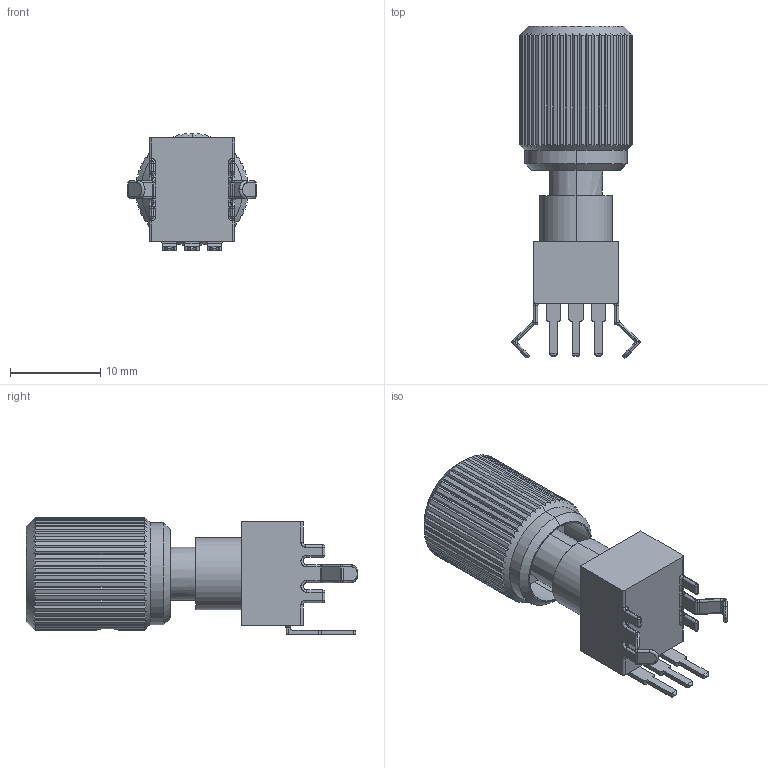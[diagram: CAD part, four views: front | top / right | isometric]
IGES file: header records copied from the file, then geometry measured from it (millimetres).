
Start section: SolidWorks IGES file using analytic representation for surfaces
Global section: file name: C:\Users\Agamemnon\Dropbox\BR-Engineering\PROJECTS\COMMANDER\MODELS\RELEASES\PUBLIC\CMDR-ASM-POTENTIOMETER-R1\CMDR-ASM-POTENTIOMETER-R1.IGS; native system: SolidWorks 2016; preprocessor: SolidWorks 2016; author: Agamemnon; date: 180628.140938; units: metre
Bounding box: 14.19 x 36.77 x 13 mm (x, y, z)
Surface area: 2496.3 mm2 (no closed solid volume)
Topology: 0 solids, 0 shells, 462 faces, 3097 edges, 3077 vertices
Faces by surface type: bspline 249, revolution 213
